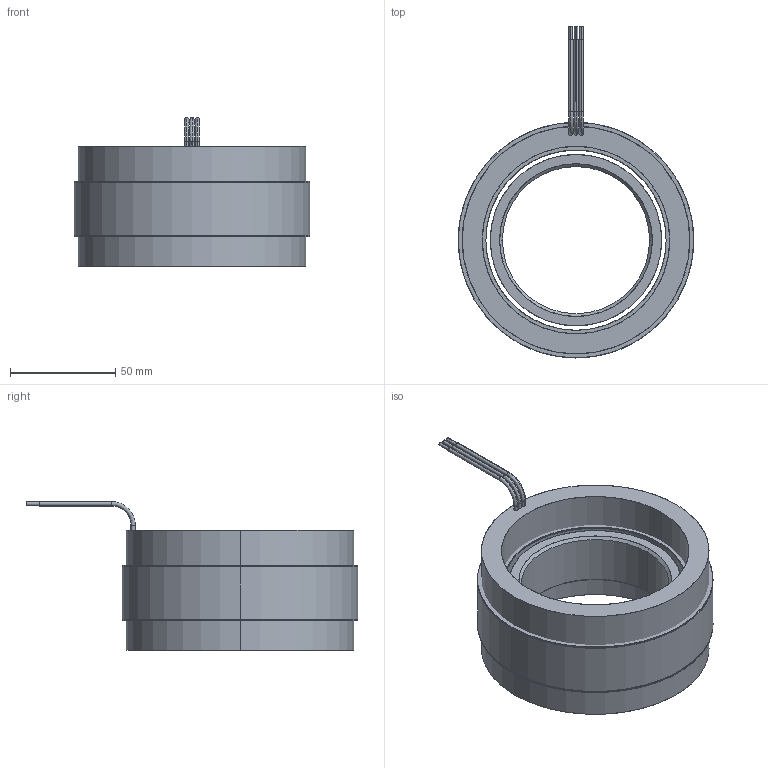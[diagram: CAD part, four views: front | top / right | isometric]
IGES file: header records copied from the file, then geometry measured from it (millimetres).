
Start section: SolidWorks IGES file using analytic representation for surfaces
Global section: file name: \\fs01.aveox.local\user documents\eng\My Documents\STANDARD STATOR ROTOR SETS\Standard rotor and stator set released\4.4 inch stator diameter\6100255-01.IGS; native system: SolidWorks 2016; preprocessor: SolidWorks 2016; author: eng; date: 191111.094036; units: millimetre
Bounding box: 111.76 x 157.42 x 70.61 mm (x, y, z)
Surface area: 113695.2 mm2 (no closed solid volume)
Topology: 0 solids, 0 shells, 76 faces, 2256 edges, 2256 vertices
Faces by surface type: revolution 50, bspline 26
